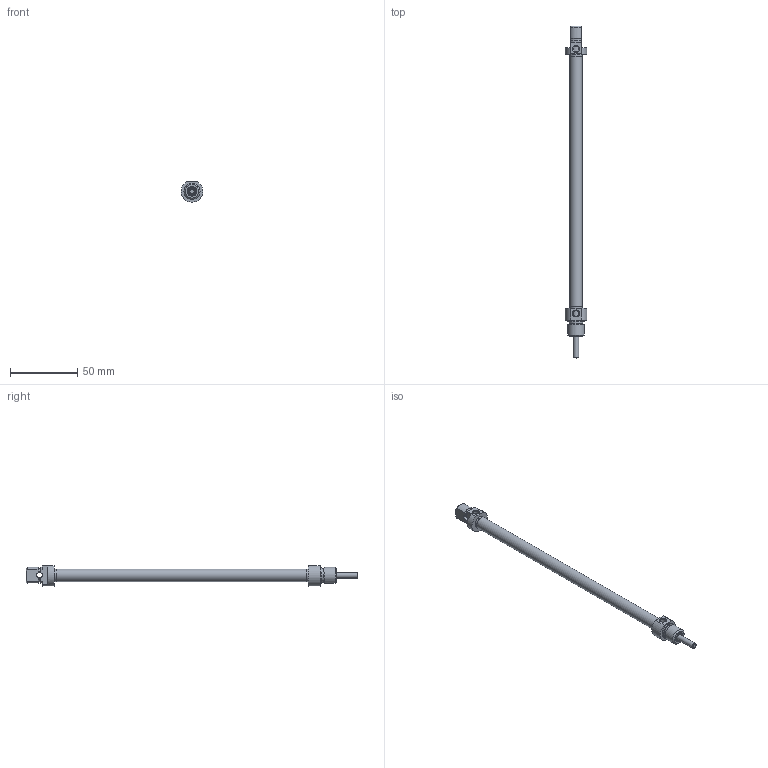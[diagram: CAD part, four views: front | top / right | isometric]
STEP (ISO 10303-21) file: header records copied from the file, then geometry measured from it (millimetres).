
FILE_DESCRIPTION((''),'2;1');
FILE_NAME('T:\Archivio Inventor\- 00 NUOVI STP PER SITO CON STELO CHE SI MUOVE\SERIE O\ODM\ODM008.---.GS.M\ODM008.160.GS.M.stp','2014-02-25T14:18:13',('carlo.corazza'),(''),'Autodesk Inventor 2012','Autodesk Inventor 2012','');
FILE_SCHEMA(('AUTOMOTIVE_DESIGN { 1 0 10303 214 1 1 1 1 }'));
Length unit declared in the file: millimetre
Products named in the file (5): ODM008..GS.M; TP; STELO-160; CORPO-160; TA
Assembly tree (4 placements, depth 2):
  ODM008..GS.M
    TP
    STELO-160
    CORPO-160
    TA
Bounding box: 16 x 246 x 15 mm (x, y, z)
Volume: 11150.9 mm3; surface area: 15974.3 mm2
Topology: 4 solids, 4 shells, 90 faces, 180 edges, 114 vertices
Faces by surface type: plane 32, cylinder 29, cone 22, torus 7
Full cylindrical faces by diameter (mm): 3 x1, 4 x2, 4.134 x2, 4.426 x1, 4.7 x1, 6.5 x1, 6.6 x1, 6.7 x1, 8 x1, 8.1 x1, 8.2 x1, 9.2 x2, 9.27 x1, 10 x1, 12 x2
Entity records: 2353 total; most frequent: CARTESIAN_POINT 419, DIRECTION 402, ORIENTED_EDGE 260, AXIS2_PLACEMENT_3D 183, EDGE_LOOP 154, EDGE_CURVE 130, VERTEX_POINT 108, FACE_OUTER_BOUND 90
